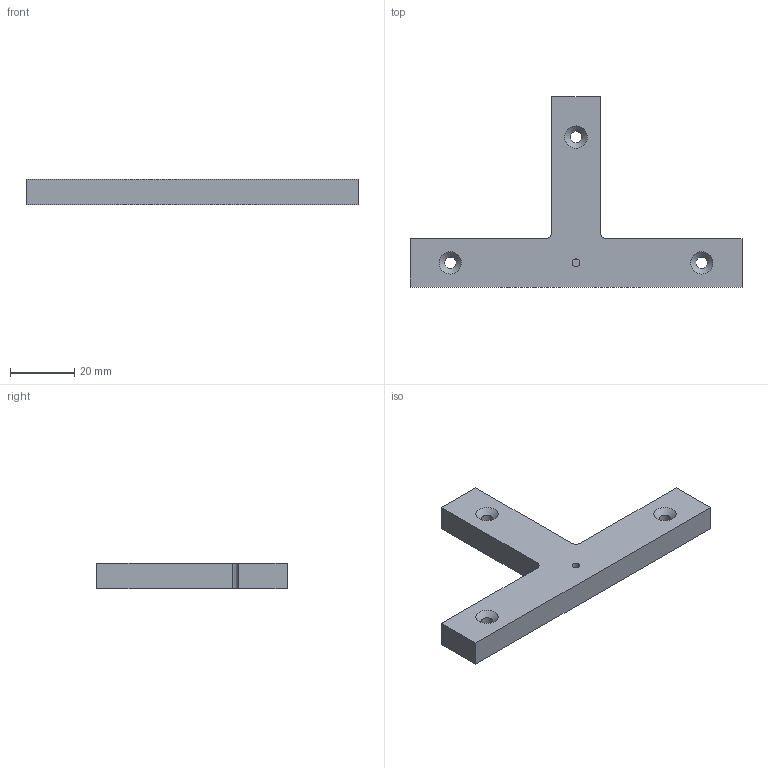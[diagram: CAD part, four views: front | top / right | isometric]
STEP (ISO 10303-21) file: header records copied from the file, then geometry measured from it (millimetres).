
FILE_DESCRIPTION(/* description */ ('Unknown'),/* implementation_level */ '2;1');
FILE_NAME(/* name */ 'F39 Z03',/* time_stamp */ '2020-12-21T15:35:42+01:00',/* author */ ('Unknown'),/* organization */ ('Unknown'),/* preprocessor_version */ 'ST-DEVELOPER v16.7',/* originating_system */ 'Solid Edge',/* authorisation */ 'Unknown');
FILE_SCHEMA (('AUTOMOTIVE_DESIGN {1 0 10303 214 3 1 1}'));
Length unit declared in the file: millimetre
Products named in the file (1): Piastra 3 elementi
Bounding box: 103 x 59 x 8 mm (x, y, z)
Volume: 17323.8 mm3; surface area: 7218.4 mm2
Topology: 1 solids, 1 shells, 20 faces, 51 edges, 34 vertices
Faces by surface type: plane 11, cylinder 6, cone 3
Full cylindrical faces by diameter (mm): 2.459 x1, 3.6 x3
Entity records: 724 total; most frequent: DIRECTION 98, CARTESIAN_POINT 93, ORIENTED_EDGE 82, EDGE_CURVE 41, AXIS2_PLACEMENT_3D 36, EDGE_LOOP 34, FACE_BOUND 34, VERTEX_POINT 31
